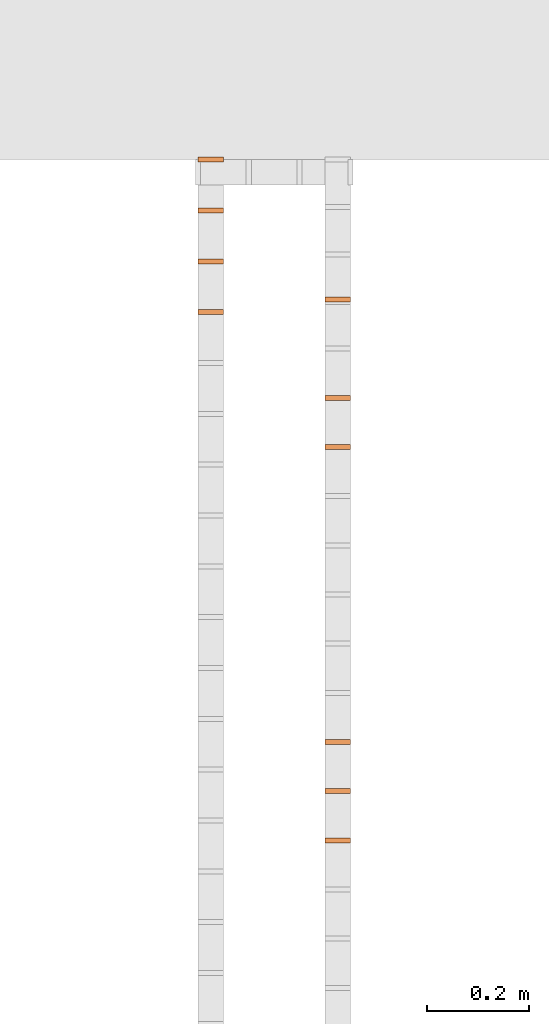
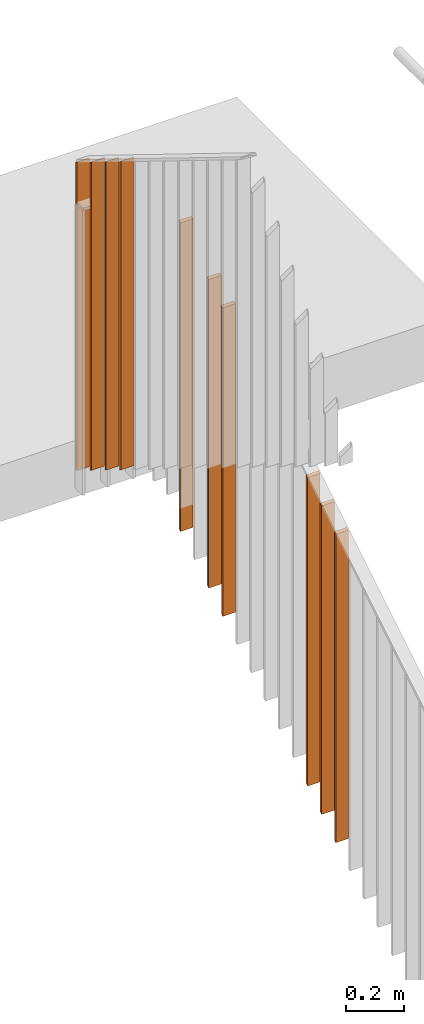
# One storey, part 92 of 100: 10 proxies, 2 elements without a shape of their own.
"""IFC2X3 building model written with IfcOpenShell, lengths in millimetres."""

from ifc_helpers import new_model, entity, si_unit, converted_unit, derived_unit, money_unit, direction, frame, origin_with_axes, place, context, subcontext, project, spatial, faceted_brep, material, type_object, element, aggregate, save


model = new_model("IFC2X3")

# Units and contexts
model_context = context("Model", 3, precision=0.01, world=origin_with_axes(), true_north=direction((0.0, 1.0)))
body_context = subcontext(model_context, "Body", "Model", "MODEL_VIEW")
ifc_project = project(units=[si_unit("LENGTHUNIT", "METRE", prefix="MILLI"), si_unit("AREAUNIT", "SQUARE_METRE"), si_unit("VOLUMEUNIT", "CUBIC_METRE"), converted_unit("PLANEANGLEUNIT", "DEGREE", entity("IfcPlaneAngleMeasure", 0.0174532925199), si_unit("PLANEANGLEUNIT", "RADIAN"), dimensions=[0, 0, 0, 0, 0, 0, 0]), si_unit("SOLIDANGLEUNIT", "STERADIAN"), money_unit("EUR"), converted_unit("TIMEUNIT", "Year", entity("IfcTimeMeasure", 31556926.0), si_unit("TIMEUNIT", "SECOND"), dimensions=[0, 0, 1, 0, 0, 0, 0]), si_unit("MASSUNIT", "GRAM", prefix="KILO"), si_unit("THERMODYNAMICTEMPERATUREUNIT", "DEGREE_CELSIUS"), si_unit("LUMINOUSINTENSITYUNIT", "LUMEN"), si_unit("ENERGYUNIT", "JOULE", prefix="MEGA"), derived_unit("THERMALCONDUCTANCEUNIT", [(si_unit("POWERUNIT", "WATT"), 1), (si_unit("LENGTHUNIT", "METRE"), -1), (si_unit("THERMODYNAMICTEMPERATUREUNIT", "KELVIN"), -1)]), derived_unit("SPECIFICHEATCAPACITYUNIT", [(si_unit("ENERGYUNIT", "JOULE"), 1), (si_unit("MASSUNIT", "GRAM", prefix="KILO"), -1), (si_unit("THERMODYNAMICTEMPERATUREUNIT", "KELVIN"), -1)]), derived_unit("MASSDENSITYUNIT", [(si_unit("MASSUNIT", "GRAM", prefix="KILO"), 1), (si_unit("VOLUMEUNIT", "CUBIC_METRE"), -1)])], contexts=[model_context])

# Site, building, storey
site_placement = place(None, origin_with_axes())
site = spatial("IfcSite", under=ifc_project, at=site_placement, Name="Politse- ja Piirivalveameti ning Päästeameti ühishoone", CompositionType="ELEMENT")
building_placement = place(site_placement, origin_with_axes())
building = spatial("IfcBuilding", under=site, at=building_placement, Name="Politse- ja Piirivalveameti ning Päästeameti ühishoone", CompositionType="ELEMENT")
storey_placement = place(building_placement, frame((0.0, 0.0, 3800.0), z_axis=(0.0, 0.0, 1.0), x_axis=(1.0, 0.0, 0.0)))
storey = spatial("IfcBuildingStorey", under=building, at=storey_placement, Name="Teine korrus", CompositionType="ELEMENT", Elevation=3800.0)

# Railing, proxies
railing_type = type_object("IfcRailingType", Name="Railing Type", PredefinedType="NOTDEFINED")
railing_1_placement = place(storey_placement, frame((61660.557259, 19348.024656, -3925.83291166), z_axis=(0.0, 0.0, 1.0), x_axis=(-1.0, 0.0, 0.0)))
railing_1 = element("IfcRailing", 1, at=railing_1_placement, inside=storey, type_object=railing_type, Name="TREPIPIIR 1", PredefinedType="NOTDEFINED")
ifc_material = material(Name="Teras - Konstruktsioon")
building_element_proxy_type = type_object("IfcBuildingElementProxyType", Name="IfcBuildingElementProxy", PredefinedType="NOTDEFINED")
proxy_1_placement = place(railing_1_placement, frame((25.0, 123.072572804, 1728.92284498), z_axis=(0.0, 0.0, 1.0), x_axis=(-1.0, 0.0, 0.0)))
proxy_1 = element("IfcBuildingElementProxy", 2, at=proxy_1_placement, type_object=building_element_proxy_type, material=ifc_material, Name="PIIRDE POST - 001", context=body_context, shape_type="Brep", body=[
    faceted_brep([(-25.0, -5.0, -3.08185890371), (25.0, -5.0, -3.08185890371), (25.0, -5.0, 1286.9181411), (-25.0, -5.0, 1286.9181411), (-25.0, 5.0, 3.08185890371), (25.0, 5.0, 3.08185890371), (25.0, 5.0, 1293.0818589), (-25.0, 5.0, 1293.0818589)], [[[0, 1, 2, 3]], [[0, 4, 5, 1]], [[1, 5, 6, 2]], [[3, 2, 6, 7]], [[4, 0, 3, 7]], [[5, 4, 7, 6]]]),
])
proxy_2_placement = place(railing_1_placement, frame((25.0, 316.520848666, 1609.68677416), z_axis=(0.0, 0.0, 1.0), x_axis=(-1.0, 0.0, 0.0)))
proxy_2 = element("IfcBuildingElementProxy", 3, at=proxy_2_placement, type_object=building_element_proxy_type, material=ifc_material, Name="BALUSTER - 001", context=body_context, shape_type="Brep", body=[
    faceted_brep([(-25.0, -5.0, -3.08185890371), (25.0, -5.0, -3.08185890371), (25.0, -5.0, 1286.91815365), (-25.0, -5.0, 1286.91815365), (-25.0, 5.0, 3.08185890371), (25.0, 5.0, 3.08185890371), (25.0, 5.0, 1293.08187146), (-25.0, 5.0, 1293.08187146)], [[[0, 1, 2, 3]], [[0, 4, 5, 1]], [[1, 5, 6, 2]], [[3, 2, 6, 7]], [[4, 0, 3, 7]], [[5, 4, 7, 6]]]),
])
proxy_3_placement = place(railing_1_placement, frame((25.0, 413.244986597, 1550.06874502), z_axis=(0.0, 0.0, 1.0), x_axis=(-1.0, 0.0, 0.0)))
proxy_3 = element("IfcBuildingElementProxy", 4, at=proxy_3_placement, type_object=building_element_proxy_type, material=ifc_material, Name="BALUSTER - 001", context=body_context, shape_type="Brep", body=[
    faceted_brep([(-25.0, -5.0, -3.08185890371), (25.0, -5.0, -3.08185890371), (25.0, -5.0, 1286.91815365), (-25.0, -5.0, 1286.91815365), (-25.0, 5.0, 3.08185890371), (25.0, 5.0, 3.08185890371), (25.0, 5.0, 1293.08187146), (-25.0, 5.0, 1293.08187146)], [[[0, 1, 2, 3]], [[0, 4, 5, 1]], [[1, 5, 6, 2]], [[3, 2, 6, 7]], [[4, 0, 3, 7]], [[5, 4, 7, 6]]]),
])
proxy_4_placement = place(railing_1_placement, frame((25.0, 993.589814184, 1192.36057019), z_axis=(0.0, 0.0, 1.0), x_axis=(-1.0, 0.0, 0.0)))
proxy_4 = element("IfcBuildingElementProxy", 5, at=proxy_4_placement, type_object=building_element_proxy_type, material=ifc_material, Name="BALUSTER - 001", context=body_context, shape_type="Brep", body=[
    faceted_brep([(-25.0, -5.0, -3.08185890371), (25.0, -5.0, -3.08185890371), (25.0, -5.0, 1286.91815365), (-25.0, -5.0, 1286.91815365), (-25.0, 5.0, 3.08185890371), (25.0, 5.0, 3.08185890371), (25.0, 5.0, 1293.08187146), (-25.0, 5.0, 1293.08187146)], [[[0, 1, 2, 3]], [[0, 4, 5, 1]], [[1, 5, 6, 2]], [[3, 2, 6, 7]], [[4, 0, 3, 7]], [[5, 4, 7, 6]]]),
])
proxy_5_placement = place(railing_1_placement, frame((25.0, 1090.31395211, 1132.74254106), z_axis=(0.0, 0.0, 1.0), x_axis=(-1.0, 0.0, 0.0)))
proxy_5 = element("IfcBuildingElementProxy", 6, at=proxy_5_placement, type_object=building_element_proxy_type, material=ifc_material, Name="BALUSTER - 001", context=body_context, shape_type="Brep", body=[
    faceted_brep([(-25.0, -5.0, -3.08185890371), (25.0, -5.0, -3.08185890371), (25.0, -5.0, 1286.91815365), (-25.0, -5.0, 1286.91815365), (-25.0, 5.0, 3.08185890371), (25.0, 5.0, 3.08185890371), (25.0, 5.0, 1293.08187146), (-25.0, 5.0, 1293.08187146)], [[[0, 1, 2, 3]], [[0, 4, 5, 1]], [[1, 5, 6, 2]], [[3, 2, 6, 7]], [[4, 0, 3, 7]], [[5, 4, 7, 6]]]),
])
proxy_6_placement = place(railing_1_placement, frame((25.0, 1187.03809005, 1073.12451192), z_axis=(0.0, 0.0, 1.0), x_axis=(-1.0, 0.0, 0.0)))
proxy_6 = element("IfcBuildingElementProxy", 7, at=proxy_6_placement, type_object=building_element_proxy_type, material=ifc_material, Name="BALUSTER - 001", context=body_context, shape_type="Brep", body=[
    faceted_brep([(-25.0, -5.0, -3.08185890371), (25.0, -5.0, -3.08185890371), (25.0, -5.0, 1286.91815365), (-25.0, -5.0, 1286.91815365), (-25.0, 5.0, 3.08185890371), (25.0, 5.0, 3.08185890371), (25.0, 5.0, 1293.08187146), (-25.0, 5.0, 1293.08187146)], [[[0, 1, 2, 3]], [[0, 4, 5, 1]], [[1, 5, 6, 2]], [[3, 2, 6, 7]], [[4, 0, 3, 7]], [[5, 4, 7, 6]]]),
])
aggregate(railing_1, [proxy_1, proxy_2, proxy_3, proxy_4, proxy_5, proxy_6])

railing_2_placement = place(storey_placement, frame((61360.5519118, 16576.8795104, -2027.27275421), z_axis=(0.0, 0.0, 1.0), x_axis=(1.0, 0.0, 0.0)))
railing_2 = element("IfcRailing", 8, at=railing_2_placement, inside=storey, type_object=railing_type, Name="TREPIPIIRE 4", PredefinedType="NOTDEFINED")
proxy_7_placement = place(railing_2_placement, frame((25.0, 2923.0725728, 0.0), z_axis=(0.0, 0.0, 1.0), x_axis=(1.0, 0.0, 0.0)))
proxy_7 = element("IfcBuildingElementProxy", 9, at=proxy_7_placement, type_object=building_element_proxy_type, material=ifc_material, Name="PIIRDE POST - 001", context=body_context, shape_type="Brep", body=[
    faceted_brep([(25.0, 5.0, -3.08441558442), (-25.0, 5.0, -3.08441558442), (-25.0, 5.0, 1286.91558442), (25.0, 5.0, 1286.91558442), (25.0, -5.0, 3.08441558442), (-25.0, -5.0, 3.08441558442), (-25.0, -5.0, 1293.08441558), (25.0, -5.0, 1293.08441558)], [[[0, 1, 2, 3]], [[0, 4, 5, 1]], [[1, 5, 6, 2]], [[3, 2, 6, 7]], [[4, 0, 3, 7]], [[5, 4, 7, 6]]]),
])
proxy_8_placement = place(railing_2_placement, frame((25.0, 2623.0725728, 185.064922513), z_axis=(0.0, 0.0, 1.0), x_axis=(1.0, 0.0, 0.0)))
proxy_8 = element("IfcBuildingElementProxy", 10, at=proxy_8_placement, type_object=building_element_proxy_type, material=ifc_material, Name="BALUSTER - 001", context=body_context, shape_type="Brep", body=[
    faceted_brep([(25.0, 5.0, -3.08441558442), (-25.0, 5.0, -3.08441558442), (-25.0, 5.0, 1286.91559697), (25.0, 5.0, 1286.91559697), (25.0, -5.0, 3.08441558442), (-25.0, -5.0, 3.08441558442), (-25.0, -5.0, 1293.08442814), (25.0, -5.0, 1293.08442814)], [[[0, 1, 2, 3]], [[0, 4, 5, 1]], [[1, 5, 6, 2]], [[3, 2, 6, 7]], [[4, 0, 3, 7]], [[5, 4, 7, 6]]]),
])
proxy_9_placement = place(railing_2_placement, frame((25.0, 2723.0725728, 123.376610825), z_axis=(0.0, 0.0, 1.0), x_axis=(1.0, 0.0, 0.0)))
proxy_9 = element("IfcBuildingElementProxy", 11, at=proxy_9_placement, type_object=building_element_proxy_type, material=ifc_material, Name="BALUSTER - 001", context=body_context, shape_type="Brep", body=[
    faceted_brep([(25.0, 5.0, -3.08441558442), (-25.0, 5.0, -3.08441558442), (-25.0, 4.99999999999, 1286.91559697), (25.0, 4.99999999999, 1286.91559697), (25.0, -5.0, 3.08441558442), (-25.0, -5.0, 3.08441558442), (-25.0, -5.00000000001, 1293.08442814), (25.0, -5.00000000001, 1293.08442814)], [[[0, 1, 2, 3]], [[0, 4, 5, 1]], [[1, 5, 6, 2]], [[3, 2, 6, 7]], [[4, 0, 3, 7]], [[5, 4, 7, 6]]]),
])
proxy_10_placement = place(railing_2_placement, frame((25.0, 2823.0725728, 61.6882991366), z_axis=(0.0, 0.0, 1.0), x_axis=(1.0, 0.0, 0.0)))
proxy_10 = element("IfcBuildingElementProxy", 12, at=proxy_10_placement, type_object=building_element_proxy_type, material=ifc_material, Name="BALUSTER - 001", context=body_context, shape_type="Brep", body=[
    faceted_brep([(25.0, 5.0, -3.08441558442), (-25.0, 5.0, -3.08441558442), (-25.0, 5.0, 1286.91559697), (25.0, 5.0, 1286.91559697), (25.0, -5.0, 3.08441558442), (-25.0, -5.0, 3.08441558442), (-25.0, -5.0, 1293.08442814), (25.0, -5.0, 1293.08442814)], [[[0, 1, 2, 3]], [[0, 4, 5, 1]], [[1, 5, 6, 2]], [[3, 2, 6, 7]], [[4, 0, 3, 7]], [[5, 4, 7, 6]]]),
])
aggregate(railing_2, [proxy_7, proxy_8, proxy_9, proxy_10])

save(model, "model.ifc")
